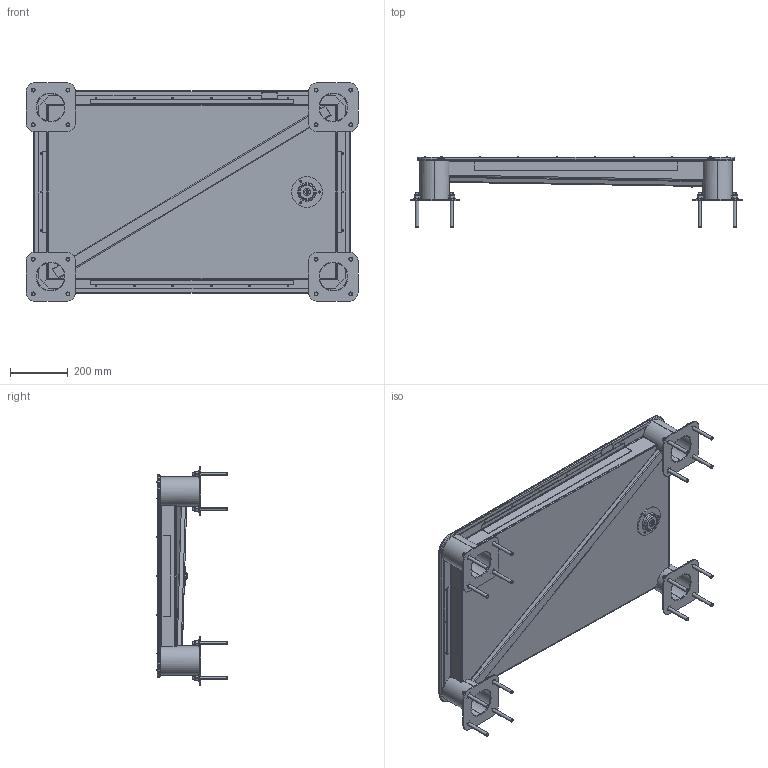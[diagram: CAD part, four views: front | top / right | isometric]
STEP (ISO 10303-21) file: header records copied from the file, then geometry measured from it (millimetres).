
FILE_DESCRIPTION (( 'STEP AP214' ), '1' );
FILE_NAME ('570.202.010.011 - Mud pool 15cm FA.STEP', '2021-03-25T08:20:02', ( '' ), ( '' ), 'SwSTEP 2.0', 'SolidWorks 2018', '' );
FILE_SCHEMA (( 'AUTOMOTIVE_DESIGN' ));
Length unit declared in the file: millimetre
Products named in the file (1): 570.202.010.011 - Mud pool 15cm FA
Bounding box: 1148 x 242.1 x 755 mm (x, y, z)
Surface area: 2912285.9 mm2 (no closed solid volume)
Topology: 0 solids, 162 shells, 1101 faces, 3452 edges, 2345 vertices
Faces by surface type: cylinder 384, plane 320, cone 128, bspline 118, torus 109, sphere 42
Entity records: 53731 total; most frequent: CARTESIAN_POINT 12223, DIRECTION 6478, ORIENTED_EDGE 5298, EDGE_CURVE 3420, AXIS2_PLACEMENT_3D 2624, VERTEX_POINT 2345, CIRCLE 1640, EDGE_LOOP 1237
